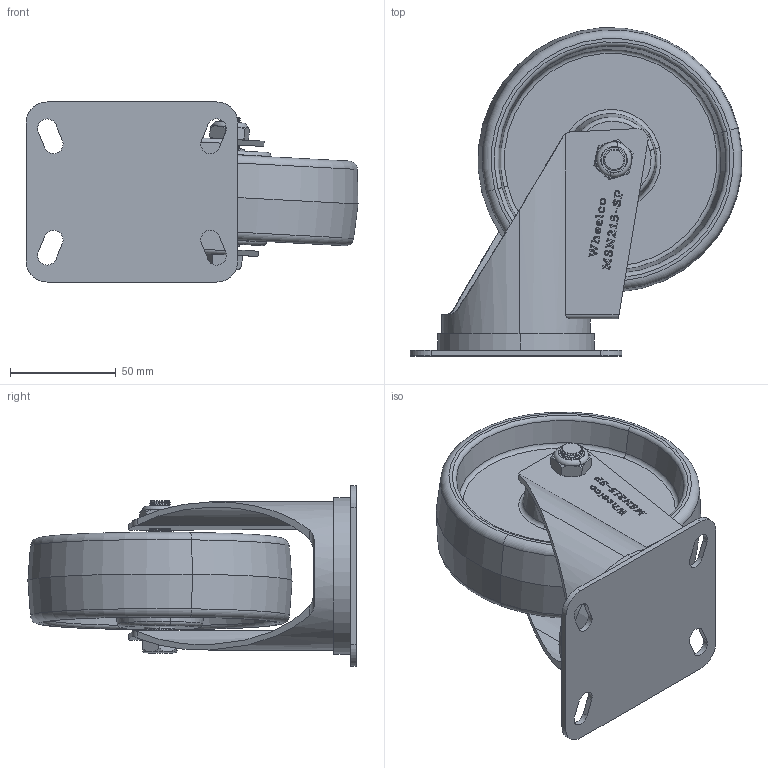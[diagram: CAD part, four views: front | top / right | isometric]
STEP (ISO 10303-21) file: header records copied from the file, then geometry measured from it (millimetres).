
FILE_DESCRIPTION (( 'STEP AP214' ), '1' );
FILE_NAME ('MSN125-SP.step', '2024-01-21T22:20:11', ( '' ), ( '' ), 'SwSTEP 2.0', 'SolidWorks 2022', '' );
FILE_SCHEMA (( 'AUTOMOTIVE_DESIGN' ));
Length unit declared in the file: millimetre
Products named in the file (7): 100X85 ANGLED; MSN125-SP; M10X65 STAINLESS BOLT; M10 Nyloc SS; SP15-10-47; MSN125
Assembly tree (6 placements, depth 2):
  MSN125-SP
    MSN125-SP
    SP15-10-47
    M10 Nyloc SS
    M10X65 STAINLESS BOLT
    MSN125
    100X85 ANGLED
Bounding box: 156.69 x 154.94 x 85 mm (x, y, z)
Volume: 336072.3 mm3; surface area: 115456.1 mm2
Topology: 6 solids, 6 shells, 553 faces, 1500 edges, 988 vertices
Faces by surface type: plane 253, cylinder 126, bspline 115, cone 33, torus 26
Entity records: 29973 total; most frequent: CARTESIAN_POINT 15705, ORIENTED_EDGE 3000, DIRECTION 2159, EDGE_CURVE 1500, VERTEX_POINT 988, LINE 871, VECTOR 871, AXIS2_PLACEMENT_3D 644
